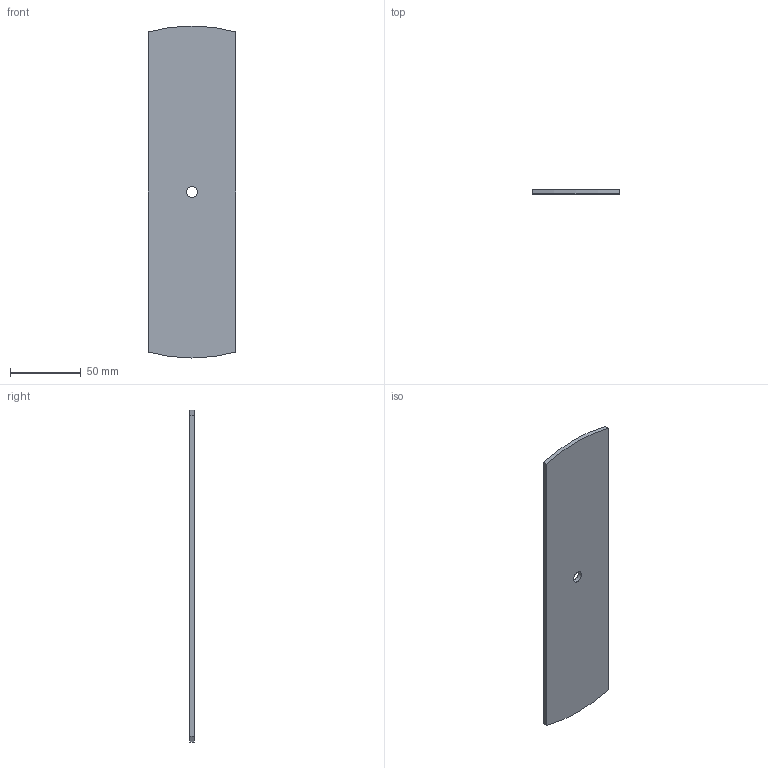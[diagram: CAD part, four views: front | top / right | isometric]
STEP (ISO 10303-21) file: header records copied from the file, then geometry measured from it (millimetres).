
FILE_DESCRIPTION(/* description */ (''),/* implementation_level */ '2;1');
FILE_NAME(/* name */ 'interno.step',/* time_stamp */ '2026-05-11T20:10:54+02:00',/* author */ (''),/* organization */ (''),/* preprocessor_version */ 'ST-DEVELOPER v20.1',/* originating_system */ 'Autodesk Translation Framework v15.8.0.0',/* authorisation */ '');
FILE_SCHEMA (('AUTOMOTIVE_DESIGN { 1 0 10303 214 3 1 1 }'));
Length unit declared in the file: millimetre
Products named in the file (1): (Non salvato)
Bounding box: 62 x 3 x 234.6 mm (x, y, z)
Volume: 42971.4 mm3; surface area: 30457 mm2
Topology: 1 solids, 1 shells, 7 faces, 15 edges, 10 vertices
Faces by surface type: plane 4, cylinder 3
Full cylindrical faces by diameter (mm): 8 x1
Entity records: 246 total; most frequent: DIRECTION 37, CARTESIAN_POINT 33, ORIENTED_EDGE 30, EDGE_CURVE 15, AXIS2_PLACEMENT_3D 14, VERTEX_POINT 10, EDGE_LOOP 9, LINE 9
